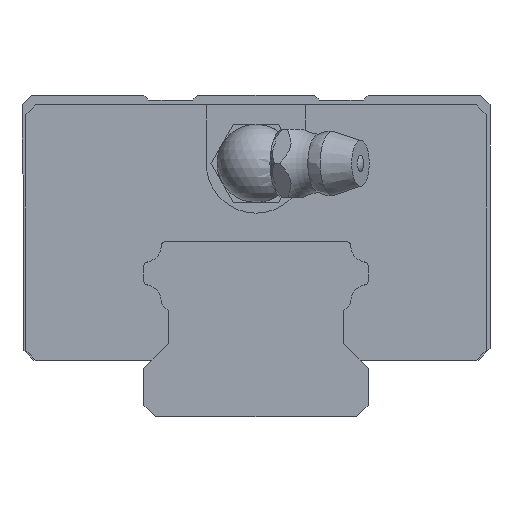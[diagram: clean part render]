
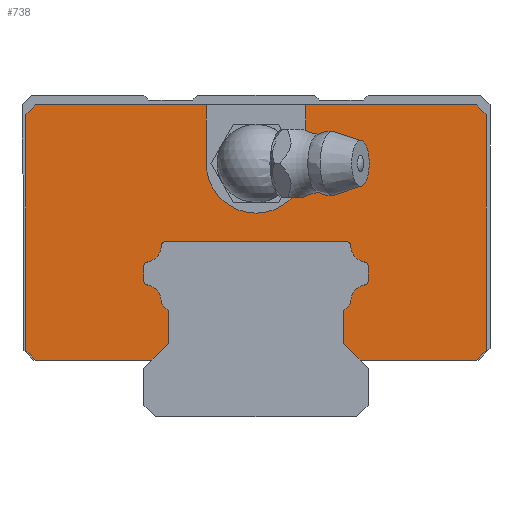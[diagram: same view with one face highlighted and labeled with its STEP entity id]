
A CAD part, front view. The second image highlights one B-rep face of the part: STEP entity #738.
In plain terms, the highlighted planar face has unit normal (0, -1, 0).
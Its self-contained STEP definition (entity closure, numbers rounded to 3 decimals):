
#550=CIRCLE('',#3340,0.5);
#552=CIRCLE('',#3343,1.7);
#554=CIRCLE('',#3346,0.5);
#556=CIRCLE('',#3353,0.5);
#558=CIRCLE('',#3356,1.7);
#560=CIRCLE('',#3359,0.5);
#562=CIRCLE('',#3363,0.5);
#564=CIRCLE('',#3366,1.7);
#566=CIRCLE('',#3369,0.5);
#568=CIRCLE('',#3373,0.5);
#570=CIRCLE('',#3376,1.7);
#572=CIRCLE('',#3379,0.5);
#591=CIRCLE('',#3430,5.1);
#738=ADVANCED_FACE('',(#978),#863,.T.);
#863=PLANE('',#3431);
#978=FACE_OUTER_BOUND('',#1175,.T.);
#1175=EDGE_LOOP('',(#1743,#1744,#1745,#1746,#1747,#1748,#1749,#1750,#1751,
#1752,#1753,#1754,#1755,#1756,#1757,#1758,#1759,#1760,#1761,#1762,#1763,
#1764,#1765,#1766,#1767,#1768,#1769,#1770,#1771,#1772,#1773,#1774,#1775,
#1776));
#1743=ORIENTED_EDGE('',*,*,#2570,.F.);
#1744=ORIENTED_EDGE('',*,*,#2529,.F.);
#1745=ORIENTED_EDGE('',*,*,#2526,.F.);
#1746=ORIENTED_EDGE('',*,*,#2523,.F.);
#1747=ORIENTED_EDGE('',*,*,#2520,.F.);
#1748=ORIENTED_EDGE('',*,*,#2517,.F.);
#1749=ORIENTED_EDGE('',*,*,#2514,.F.);
#1750=ORIENTED_EDGE('',*,*,#2568,.F.);
#1751=ORIENTED_EDGE('',*,*,#2566,.F.);
#1752=ORIENTED_EDGE('',*,*,#2563,.F.);
#1753=ORIENTED_EDGE('',*,*,#2560,.F.);
#1754=ORIENTED_EDGE('',*,*,#2557,.F.);
#1755=ORIENTED_EDGE('',*,*,#2554,.F.);
#1756=ORIENTED_EDGE('',*,*,#2551,.F.);
#1757=ORIENTED_EDGE('',*,*,#2548,.F.);
#1758=ORIENTED_EDGE('',*,*,#2545,.F.);
#1759=ORIENTED_EDGE('',*,*,#2542,.F.);
#1760=ORIENTED_EDGE('',*,*,#2539,.F.);
#1761=ORIENTED_EDGE('',*,*,#2536,.F.);
#1762=ORIENTED_EDGE('',*,*,#2533,.F.);
#1763=ORIENTED_EDGE('',*,*,#2572,.F.);
#1764=ORIENTED_EDGE('',*,*,#2486,.T.);
#1765=ORIENTED_EDGE('',*,*,#2590,.T.);
#1766=ORIENTED_EDGE('',*,*,#2587,.T.);
#1767=ORIENTED_EDGE('',*,*,#2592,.T.);
#1768=ORIENTED_EDGE('',*,*,#2598,.T.);
#1769=ORIENTED_EDGE('',*,*,#2608,.F.);
#1770=ORIENTED_EDGE('',*,*,#2609,.F.);
#1771=ORIENTED_EDGE('',*,*,#2610,.F.);
#1772=ORIENTED_EDGE('',*,*,#2594,.T.);
#1773=ORIENTED_EDGE('',*,*,#2599,.T.);
#1774=ORIENTED_EDGE('',*,*,#2583,.T.);
#1775=ORIENTED_EDGE('',*,*,#2589,.T.);
#1776=ORIENTED_EDGE('',*,*,#2482,.T.);
#2171=VERTEX_POINT('',#4698);
#2172=VERTEX_POINT('',#4700);
#2173=VERTEX_POINT('',#4705);
#2174=VERTEX_POINT('',#4707);
#2182=VERTEX_POINT('',#4758);
#2184=VERTEX_POINT('',#4762);
#2186=VERTEX_POINT('',#4767);
#2188=VERTEX_POINT('',#4773);
#2190=VERTEX_POINT('',#4779);
#2192=VERTEX_POINT('',#4785);
#2194=VERTEX_POINT('',#4791);
#2196=VERTEX_POINT('',#4797);
#2198=VERTEX_POINT('',#4801);
#2200=VERTEX_POINT('',#4806);
#2202=VERTEX_POINT('',#4812);
#2204=VERTEX_POINT('',#4818);
#2206=VERTEX_POINT('',#4824);
#2208=VERTEX_POINT('',#4830);
#2210=VERTEX_POINT('',#4836);
#2212=VERTEX_POINT('',#4842);
#2214=VERTEX_POINT('',#4848);
#2216=VERTEX_POINT('',#4854);
#2218=VERTEX_POINT('',#4860);
#2220=VERTEX_POINT('',#4866);
#2234=VERTEX_POINT('',#4914);
#2235=VERTEX_POINT('',#4916);
#2237=VERTEX_POINT('',#4922);
#2238=VERTEX_POINT('',#4924);
#2239=VERTEX_POINT('',#4932);
#2240=VERTEX_POINT('',#4936);
#2241=VERTEX_POINT('',#4938);
#2244=VERTEX_POINT('',#4944);
#2253=VERTEX_POINT('',#4976);
#2254=VERTEX_POINT('',#4978);
#2482=EDGE_CURVE('',#2172,#2171,#2835,.T.);
#2486=EDGE_CURVE('',#2174,#2173,#2839,.T.);
#2514=EDGE_CURVE('',#2184,#2182,#2863,.T.);
#2517=EDGE_CURVE('',#2182,#2186,#550,.T.);
#2520=EDGE_CURVE('',#2186,#2188,#552,.T.);
#2523=EDGE_CURVE('',#2188,#2190,#554,.T.);
#2526=EDGE_CURVE('',#2190,#2192,#2869,.T.);
#2529=EDGE_CURVE('',#2192,#2194,#2872,.T.);
#2533=EDGE_CURVE('',#2198,#2196,#2876,.T.);
#2536=EDGE_CURVE('',#2196,#2200,#2879,.T.);
#2539=EDGE_CURVE('',#2200,#2202,#556,.T.);
#2542=EDGE_CURVE('',#2202,#2204,#558,.T.);
#2545=EDGE_CURVE('',#2204,#2206,#560,.T.);
#2548=EDGE_CURVE('',#2206,#2208,#2885,.T.);
#2551=EDGE_CURVE('',#2208,#2210,#562,.T.);
#2554=EDGE_CURVE('',#2210,#2212,#564,.T.);
#2557=EDGE_CURVE('',#2212,#2214,#566,.T.);
#2560=EDGE_CURVE('',#2214,#2216,#2891,.T.);
#2563=EDGE_CURVE('',#2216,#2218,#568,.T.);
#2566=EDGE_CURVE('',#2218,#2220,#570,.T.);
#2568=EDGE_CURVE('',#2220,#2184,#572,.T.);
#2570=EDGE_CURVE('',#2194,#2171,#2895,.T.);
#2572=EDGE_CURVE('',#2174,#2198,#2897,.T.);
#2583=EDGE_CURVE('',#2235,#2234,#2899,.T.);
#2587=EDGE_CURVE('',#2238,#2237,#2902,.T.);
#2589=EDGE_CURVE('',#2234,#2172,#2904,.T.);
#2590=EDGE_CURVE('',#2173,#2238,#2905,.T.);
#2592=EDGE_CURVE('',#2237,#2239,#2907,.T.);
#2594=EDGE_CURVE('',#2241,#2240,#2909,.T.);
#2598=EDGE_CURVE('',#2239,#2244,#2913,.T.);
#2599=EDGE_CURVE('',#2240,#2235,#2914,.T.);
#2608=EDGE_CURVE('',#2253,#2244,#2915,.T.);
#2609=EDGE_CURVE('',#2254,#2253,#591,.T.);
#2610=EDGE_CURVE('',#2241,#2254,#2916,.T.);
#2835=LINE('',#4699,#3087);
#2839=LINE('',#4706,#3091);
#2863=LINE('',#4763,#3115);
#2869=LINE('',#4787,#3121);
#2872=LINE('',#4793,#3124);
#2876=LINE('',#4802,#3128);
#2879=LINE('',#4808,#3131);
#2885=LINE('',#4832,#3137);
#2891=LINE('',#4856,#3143);
#2895=LINE('',#4874,#3147);
#2897=LINE('',#4877,#3149);
#2899=LINE('',#4915,#3151);
#2902=LINE('',#4923,#3154);
#2904=LINE('',#4927,#3156);
#2905=LINE('',#4929,#3157);
#2907=LINE('',#4933,#3159);
#2909=LINE('',#4937,#3161);
#2913=LINE('',#4945,#3165);
#2914=LINE('',#4947,#3166);
#2915=LINE('',#4975,#3167);
#2916=LINE('',#4979,#3168);
#3087=VECTOR('',#3803,1.);
#3091=VECTOR('',#3809,1.);
#3115=VECTOR('',#3877,1.);
#3121=VECTOR('',#3903,1.);
#3124=VECTOR('',#3908,1.);
#3128=VECTOR('',#3914,1.);
#3131=VECTOR('',#3919,1.);
#3137=VECTOR('',#3945,1.);
#3143=VECTOR('',#3971,1.);
#3147=VECTOR('',#3995,1.);
#3149=VECTOR('',#3999,1.);
#3151=VECTOR('',#4045,1.);
#3154=VECTOR('',#4052,1.);
#3156=VECTOR('',#4056,1.);
#3157=VECTOR('',#4059,1.);
#3159=VECTOR('',#4063,1.);
#3161=VECTOR('',#4067,1.);
#3165=VECTOR('',#4071,1.);
#3166=VECTOR('',#4074,1.);
#3167=VECTOR('',#4113,1.);
#3168=VECTOR('',#4116,1.);
#3340=AXIS2_PLACEMENT_3D('',#4769,#3883,#3884);
#3343=AXIS2_PLACEMENT_3D('',#4775,#3890,#3891);
#3346=AXIS2_PLACEMENT_3D('',#4781,#3897,#3898);
#3353=AXIS2_PLACEMENT_3D('',#4814,#3925,#3926);
#3356=AXIS2_PLACEMENT_3D('',#4820,#3932,#3933);
#3359=AXIS2_PLACEMENT_3D('',#4826,#3939,#3940);
#3363=AXIS2_PLACEMENT_3D('',#4838,#3951,#3952);
#3366=AXIS2_PLACEMENT_3D('',#4844,#3958,#3959);
#3369=AXIS2_PLACEMENT_3D('',#4850,#3965,#3966);
#3373=AXIS2_PLACEMENT_3D('',#4862,#3977,#3978);
#3376=AXIS2_PLACEMENT_3D('',#4868,#3984,#3985);
#3379=AXIS2_PLACEMENT_3D('',#4871,#3990,#3991);
#3430=AXIS2_PLACEMENT_3D('',#4977,#4114,#4115);
#3431=AXIS2_PLACEMENT_3D('',#4980,#4117,#4118);
#3803=DIRECTION('',(1.,0.,0.));
#3809=DIRECTION('',(1.,0.,0.));
#3877=DIRECTION('',(0.,0.,-1.));
#3883=DIRECTION('',(0.,-1.,0.));
#3884=DIRECTION('',(0.,0.,-1.));
#3890=DIRECTION('',(0.,1.,0.));
#3891=DIRECTION('',(0.,0.,-1.));
#3897=DIRECTION('',(0.,-1.,0.));
#3898=DIRECTION('',(0.,0.,-1.));
#3903=DIRECTION('',(0.707,0.,-0.707));
#3908=DIRECTION('',(0.,0.,-1.));
#3914=DIRECTION('',(0.,0.,1.));
#3919=DIRECTION('',(0.707,0.,0.707));
#3925=DIRECTION('',(0.,-1.,0.));
#3926=DIRECTION('',(0.,0.,-1.));
#3932=DIRECTION('',(0.,1.,0.));
#3933=DIRECTION('',(0.,0.,-1.));
#3939=DIRECTION('',(0.,-1.,0.));
#3940=DIRECTION('',(0.,0.,-1.));
#3945=DIRECTION('',(0.,0.,1.));
#3951=DIRECTION('',(0.,-1.,0.));
#3952=DIRECTION('',(0.,0.,-1.));
#3958=DIRECTION('',(0.,1.,0.));
#3959=DIRECTION('',(0.,0.,-1.));
#3965=DIRECTION('',(0.,-1.,0.));
#3966=DIRECTION('',(0.,0.,-1.));
#3971=DIRECTION('',(-1.,0.,0.));
#3977=DIRECTION('',(0.,-1.,0.));
#3978=DIRECTION('',(0.,0.,-1.));
#3984=DIRECTION('',(0.,1.,0.));
#3985=DIRECTION('',(0.,0.,-1.));
#3990=DIRECTION('',(0.,-1.,0.));
#3991=DIRECTION('',(0.,0.,-1.));
#3995=DIRECTION('',(-0.707,0.,-0.707));
#3999=DIRECTION('',(-0.707,0.,0.707));
#4045=DIRECTION('',(0.,0.,-1.));
#4052=DIRECTION('',(0.,0.,1.));
#4056=DIRECTION('',(0.707,0.,-0.707));
#4059=DIRECTION('',(0.707,0.,0.707));
#4063=DIRECTION('',(-0.707,0.,0.707));
#4067=DIRECTION('',(-1.,0.,0.));
#4071=DIRECTION('',(-1.,0.,0.));
#4074=DIRECTION('',(-0.707,0.,-0.707));
#4113=DIRECTION('',(0.,0.,1.));
#4114=DIRECTION('',(0.,-1.,0.));
#4115=DIRECTION('',(1.,0.,0.));
#4116=DIRECTION('',(0.,0.,-1.));
#4117=DIRECTION('',(0.,-1.,0.));
#4118=DIRECTION('',(0.,0.,-1.));
#4698=CARTESIAN_POINT('',(-10.7,-10.5,5.8));
#4699=CARTESIAN_POINT('',(-22.6,-10.5,5.8));
#4700=CARTESIAN_POINT('',(-22.6,-10.5,5.8));
#4705=CARTESIAN_POINT('',(22.6,-10.5,5.8));
#4706=CARTESIAN_POINT('',(-22.6,-10.5,5.8));
#4707=CARTESIAN_POINT('',(10.7,-10.5,5.8));
#4758=CARTESIAN_POINT('',(-11.5,-10.5,13.995));
#4762=CARTESIAN_POINT('',(-11.5,-10.5,15.412));
#4763=CARTESIAN_POINT('',(-11.5,-10.5,26.));
#4767=CARTESIAN_POINT('',(-11.097,-10.5,13.504));
#4769=CARTESIAN_POINT('',(-11.,-10.5,13.995));
#4773=CARTESIAN_POINT('',(-9.726,-10.5,11.834));
#4775=CARTESIAN_POINT('',(-11.426,-10.5,11.836));
#4779=CARTESIAN_POINT('',(-9.58,-10.5,11.48));
#4781=CARTESIAN_POINT('',(-9.226,-10.5,11.833));
#4785=CARTESIAN_POINT('',(-9.,-10.5,10.9));
#4787=CARTESIAN_POINT('',(-12.05,-10.5,13.95));
#4791=CARTESIAN_POINT('',(-9.,-10.5,7.5));
#4793=CARTESIAN_POINT('',(-9.,-10.5,26.));
#4797=CARTESIAN_POINT('',(9.,-10.5,10.9));
#4801=CARTESIAN_POINT('',(9.,-10.5,7.5));
#4802=CARTESIAN_POINT('',(9.,-10.5,26.));
#4806=CARTESIAN_POINT('',(9.58,-10.5,11.48));
#4808=CARTESIAN_POINT('',(12.05,-10.5,13.95));
#4812=CARTESIAN_POINT('',(9.726,-10.5,11.834));
#4814=CARTESIAN_POINT('',(9.226,-10.5,11.833));
#4818=CARTESIAN_POINT('',(11.097,-10.5,13.504));
#4820=CARTESIAN_POINT('',(11.426,-10.5,11.836));
#4824=CARTESIAN_POINT('',(11.5,-10.5,13.995));
#4826=CARTESIAN_POINT('',(11.,-10.5,13.995));
#4830=CARTESIAN_POINT('',(11.5,-10.5,15.412));
#4832=CARTESIAN_POINT('',(11.5,-10.5,26.));
#4836=CARTESIAN_POINT('',(11.097,-10.5,15.902));
#4838=CARTESIAN_POINT('',(11.,-10.5,15.412));
#4842=CARTESIAN_POINT('',(9.727,-10.5,17.516));
#4844=CARTESIAN_POINT('',(11.426,-10.5,17.57));
#4848=CARTESIAN_POINT('',(9.227,-10.5,18.));
#4850=CARTESIAN_POINT('',(9.227,-10.5,17.5));
#4854=CARTESIAN_POINT('',(-9.227,-10.5,18.));
#4856=CARTESIAN_POINT('',(0.,-10.5,18.));
#4860=CARTESIAN_POINT('',(-9.727,-10.5,17.516));
#4862=CARTESIAN_POINT('',(-9.227,-10.5,17.5));
#4866=CARTESIAN_POINT('',(-11.097,-10.5,15.902));
#4868=CARTESIAN_POINT('',(-11.426,-10.5,17.57));
#4871=CARTESIAN_POINT('',(-11.,-10.5,15.412));
#4874=CARTESIAN_POINT('',(4.75,-10.5,21.25));
#4877=CARTESIAN_POINT('',(-4.75,-10.5,21.25));
#4914=CARTESIAN_POINT('',(-23.6,-10.5,6.8));
#4915=CARTESIAN_POINT('',(-23.6,-10.5,31.));
#4916=CARTESIAN_POINT('',(-23.6,-10.5,31.));
#4922=CARTESIAN_POINT('',(23.6,-10.5,31.));
#4923=CARTESIAN_POINT('',(23.6,-10.5,6.8));
#4924=CARTESIAN_POINT('',(23.6,-10.5,6.8));
#4927=CARTESIAN_POINT('',(-23.6,-10.5,6.8));
#4929=CARTESIAN_POINT('',(22.6,-10.5,5.8));
#4932=CARTESIAN_POINT('',(22.6,-10.5,32.));
#4933=CARTESIAN_POINT('',(23.6,-10.5,31.));
#4936=CARTESIAN_POINT('',(-22.6,-10.5,32.));
#4937=CARTESIAN_POINT('',(22.6,-10.5,32.));
#4938=CARTESIAN_POINT('',(-5.1,-10.5,32.));
#4944=CARTESIAN_POINT('',(5.1,-10.5,32.));
#4945=CARTESIAN_POINT('',(22.6,-10.5,32.));
#4947=CARTESIAN_POINT('',(-22.6,-10.5,32.));
#4975=CARTESIAN_POINT('',(5.1,-10.5,26.));
#4976=CARTESIAN_POINT('',(5.1,-10.5,26.));
#4977=CARTESIAN_POINT('',(0.,-10.5,26.));
#4978=CARTESIAN_POINT('',(-5.1,-10.5,26.));
#4979=CARTESIAN_POINT('',(-5.1,-10.5,32.));
#4980=CARTESIAN_POINT('',(0.,-10.5,26.));
